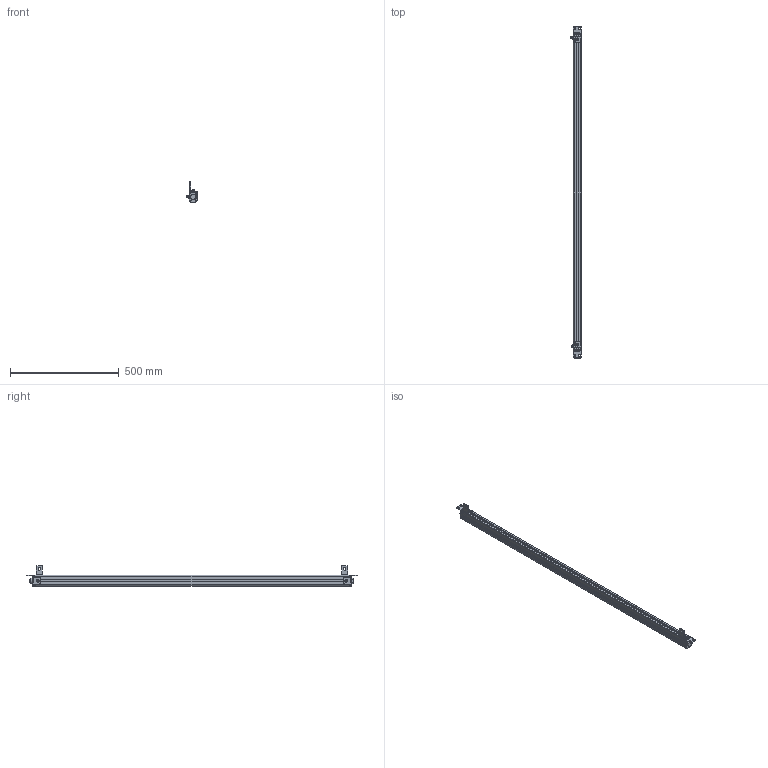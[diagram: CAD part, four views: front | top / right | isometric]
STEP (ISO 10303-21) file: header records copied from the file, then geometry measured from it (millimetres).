
FILE_DESCRIPTION((''),'2;1');
FILE_NAME('ESN--000_ASM','2021-08-11T16:32:53',('18720616900'),(''),'CREO PARAMETRIC BY PTC INC, 2019010','CREO PARAMETRIC BY PTC INC, 2019010','');
FILE_SCHEMA(('CONFIG_CONTROL_DESIGN'));
Length unit declared in the file: millimetre
Products named in the file (22): 00; 000; _0001; 4000; 4--0001; ESN_40001_ASM; L10001; M6-8--0001; M6-1--00; M6-1-00; M6-80001_ASM; L1--0001_ASM; _0002; 0005; ST-3-120001; H1--000; H1--0001_ASM; H1--0003_ASM; ESN--000_ASM
Assembly tree (34 placements, depth 4):
  ESN--000_ASM
    00
    000
    _0001
    000
    ESN_40001_ASM
      4000
      4--0001  x4
    L1--0001_ASM  x2
      L10001
      M6-80001_ASM
        M6-8--0001
        M6-1--00
        M6-1-00
        00
    _0002
    0005
    ST-3-120001  x8
    H1--0001_ASM
      H1--000
      M6-80001_ASM
        M6-8--0001
        M6-1--00
        M6-1-00
        00
    H1--0003_ASM
      H1--000
      M6-80001_ASM
        M6-8--0001
        M6-1--00
        M6-1-00
        00
Bounding box: 46.5 x 1527 x 94.95 mm (x, y, z)
Volume: 2204045.7 mm3; surface area: 446721.8 mm2
Topology: 39 solids, 39 shells, 1727 faces, 4555 edges, 2925 vertices
Faces by surface type: plane 541, cylinder 404, bspline 362, cone 291, torus 105, sphere 24
Entity records: 45714 total; most frequent: CARTESIAN_POINT 24222, ORIENTED_EDGE 4766, DIRECTION 3842, EDGE_CURVE 2383, VERTEX_POINT 1546, AXIS2_PLACEMENT_3D 1400, VECTOR 1042, LINE 1042
